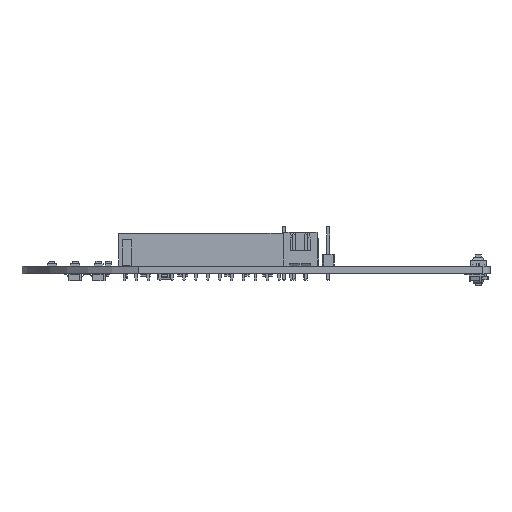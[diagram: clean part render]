
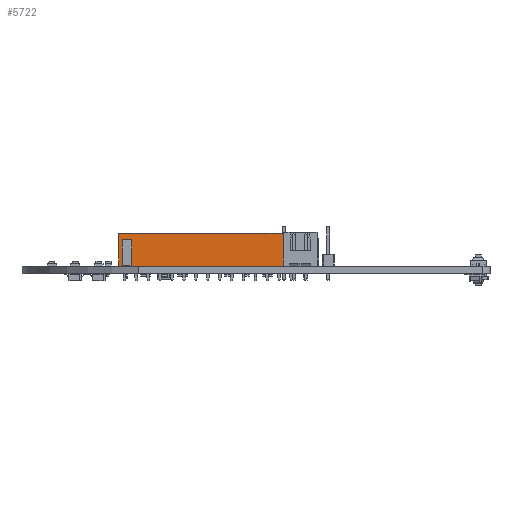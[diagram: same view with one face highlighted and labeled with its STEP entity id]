
A CAD part, left-side view. The second image highlights one B-rep face of the part: STEP entity #5722.
In plain terms, the highlighted planar face has unit normal (-1, 0, 0).
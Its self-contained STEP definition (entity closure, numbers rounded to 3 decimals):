
#316 = PLANE('',#317);
#317 = AXIS2_PLACEMENT_3D('',#318,#319,#320);
#318 = CARTESIAN_POINT('',(-1.27,-36.83,0.));
#319 = DIRECTION('',(0.,1.,0.));
#320 = DIRECTION('',(1.,0.,0.));
#344 = PLANE('',#345);
#345 = AXIS2_PLACEMENT_3D('',#346,#347,#348);
#346 = CARTESIAN_POINT('',(1.27,-36.83,7.));
#347 = DIRECTION('',(0.,0.,-1.));
#348 = DIRECTION('',(0.,-1.,0.));
#372 = PLANE('',#373);
#373 = AXIS2_PLACEMENT_3D('',#374,#375,#376);
#374 = CARTESIAN_POINT('',(1.27,1.27,0.));
#375 = DIRECTION('',(0.,-1.,0.));
#376 = DIRECTION('',(-1.,0.,0.));
#414 = VERTEX_POINT('',#415);
#415 = CARTESIAN_POINT('',(-1.27,-36.83,0.));
#431 = PLANE('',#432);
#432 = AXIS2_PLACEMENT_3D('',#433,#434,#435);
#433 = CARTESIAN_POINT('',(1.27,-36.83,0.));
#434 = DIRECTION('',(0.,0.,-1.));
#435 = DIRECTION('',(0.,-1.,0.));
#443 = EDGE_CURVE('',#414,#444,#446,.T.);
#444 = VERTEX_POINT('',#445);
#445 = CARTESIAN_POINT('',(-1.27,-36.83,7.));
#446 = SURFACE_CURVE('',#447,(#451,#458),.PCURVE_S1.);
#447 = LINE('',#448,#449);
#448 = CARTESIAN_POINT('',(-1.27,-36.83,0.));
#449 = VECTOR('',#450,1.);
#450 = DIRECTION('',(0.,0.,1.));
#451 = PCURVE('',#316,#452);
#452 = DEFINITIONAL_REPRESENTATION('',(#453),#457);
#453 = LINE('',#454,#455);
#454 = CARTESIAN_POINT('',(0.,0.));
#455 = VECTOR('',#456,1.);
#456 = DIRECTION('',(0.,-1.));
#457 = ( GEOMETRIC_REPRESENTATION_CONTEXT(2) 
PARAMETRIC_REPRESENTATION_CONTEXT() REPRESENTATION_CONTEXT('2D SPACE',''
  ) );
#458 = PCURVE('',#459,#464);
#459 = PLANE('',#460);
#460 = AXIS2_PLACEMENT_3D('',#461,#462,#463);
#461 = CARTESIAN_POINT('',(-1.27,1.27,0.));
#462 = DIRECTION('',(1.,0.,0.));
#463 = DIRECTION('',(0.,-1.,0.));
#464 = DEFINITIONAL_REPRESENTATION('',(#465),#469);
#465 = LINE('',#466,#467);
#466 = CARTESIAN_POINT('',(38.1,0.));
#467 = VECTOR('',#468,1.);
#468 = DIRECTION('',(0.,-1.));
#469 = ( GEOMETRIC_REPRESENTATION_CONTEXT(2) 
PARAMETRIC_REPRESENTATION_CONTEXT() REPRESENTATION_CONTEXT('2D SPACE',''
  ) );
#626 = VERTEX_POINT('',#627);
#627 = CARTESIAN_POINT('',(-1.27,1.27,7.));
#648 = EDGE_CURVE('',#649,#626,#651,.T.);
#649 = VERTEX_POINT('',#650);
#650 = CARTESIAN_POINT('',(-1.27,1.27,0.));
#651 = SURFACE_CURVE('',#652,(#656,#663),.PCURVE_S1.);
#652 = LINE('',#653,#654);
#653 = CARTESIAN_POINT('',(-1.27,1.27,0.));
#654 = VECTOR('',#655,1.);
#655 = DIRECTION('',(0.,0.,1.));
#656 = PCURVE('',#372,#657);
#657 = DEFINITIONAL_REPRESENTATION('',(#658),#662);
#658 = LINE('',#659,#660);
#659 = CARTESIAN_POINT('',(2.54,0.));
#660 = VECTOR('',#661,1.);
#661 = DIRECTION('',(0.,-1.));
#662 = ( GEOMETRIC_REPRESENTATION_CONTEXT(2) 
PARAMETRIC_REPRESENTATION_CONTEXT() REPRESENTATION_CONTEXT('2D SPACE',''
  ) );
#663 = PCURVE('',#459,#664);
#664 = DEFINITIONAL_REPRESENTATION('',(#665),#669);
#665 = LINE('',#666,#667);
#666 = CARTESIAN_POINT('',(0.,0.));
#667 = VECTOR('',#668,1.);
#668 = DIRECTION('',(0.,-1.));
#669 = ( GEOMETRIC_REPRESENTATION_CONTEXT(2) 
PARAMETRIC_REPRESENTATION_CONTEXT() REPRESENTATION_CONTEXT('2D SPACE',''
  ) );
#793 = EDGE_CURVE('',#626,#444,#794,.T.);
#794 = SURFACE_CURVE('',#795,(#799,#806),.PCURVE_S1.);
#795 = LINE('',#796,#797);
#796 = CARTESIAN_POINT('',(-1.27,1.27,7.));
#797 = VECTOR('',#798,1.);
#798 = DIRECTION('',(0.,-1.,0.));
#799 = PCURVE('',#344,#800);
#800 = DEFINITIONAL_REPRESENTATION('',(#801),#805);
#801 = LINE('',#802,#803);
#802 = CARTESIAN_POINT('',(-38.1,2.54));
#803 = VECTOR('',#804,1.);
#804 = DIRECTION('',(1.,0.));
#805 = ( GEOMETRIC_REPRESENTATION_CONTEXT(2) 
PARAMETRIC_REPRESENTATION_CONTEXT() REPRESENTATION_CONTEXT('2D SPACE',''
  ) );
#806 = PCURVE('',#459,#807);
#807 = DEFINITIONAL_REPRESENTATION('',(#808),#812);
#808 = LINE('',#809,#810);
#809 = CARTESIAN_POINT('',(0.,-7.));
#810 = VECTOR('',#811,1.);
#811 = DIRECTION('',(1.,0.));
#812 = ( GEOMETRIC_REPRESENTATION_CONTEXT(2) 
PARAMETRIC_REPRESENTATION_CONTEXT() REPRESENTATION_CONTEXT('2D SPACE',''
  ) );
#2550 = EDGE_CURVE('',#649,#414,#2551,.T.);
#2551 = SURFACE_CURVE('',#2552,(#2556,#2563),.PCURVE_S1.);
#2552 = LINE('',#2553,#2554);
#2553 = CARTESIAN_POINT('',(-1.27,1.27,0.));
#2554 = VECTOR('',#2555,1.);
#2555 = DIRECTION('',(0.,-1.,0.));
#2556 = PCURVE('',#431,#2557);
#2557 = DEFINITIONAL_REPRESENTATION('',(#2558),#2562);
#2558 = LINE('',#2559,#2560);
#2559 = CARTESIAN_POINT('',(-38.1,2.54));
#2560 = VECTOR('',#2561,1.);
#2561 = DIRECTION('',(1.,0.));
#2562 = ( GEOMETRIC_REPRESENTATION_CONTEXT(2) 
PARAMETRIC_REPRESENTATION_CONTEXT() REPRESENTATION_CONTEXT('2D SPACE',''
  ) );
#2563 = PCURVE('',#459,#2564);
#2564 = DEFINITIONAL_REPRESENTATION('',(#2565),#2569);
#2565 = LINE('',#2566,#2567);
#2566 = CARTESIAN_POINT('',(0.,0.));
#2567 = VECTOR('',#2568,1.);
#2568 = DIRECTION('',(1.,0.));
#2569 = ( GEOMETRIC_REPRESENTATION_CONTEXT(2) 
PARAMETRIC_REPRESENTATION_CONTEXT() REPRESENTATION_CONTEXT('2D SPACE',''
  ) );
#5722 = ADVANCED_FACE('',(#5723),#459,.F.);
#5723 = FACE_BOUND('',#5724,.F.);
#5724 = EDGE_LOOP('',(#5725,#5726,#5727,#5728));
#5725 = ORIENTED_EDGE('',*,*,#648,.T.);
#5726 = ORIENTED_EDGE('',*,*,#793,.T.);
#5727 = ORIENTED_EDGE('',*,*,#443,.F.);
#5728 = ORIENTED_EDGE('',*,*,#2550,.F.);
